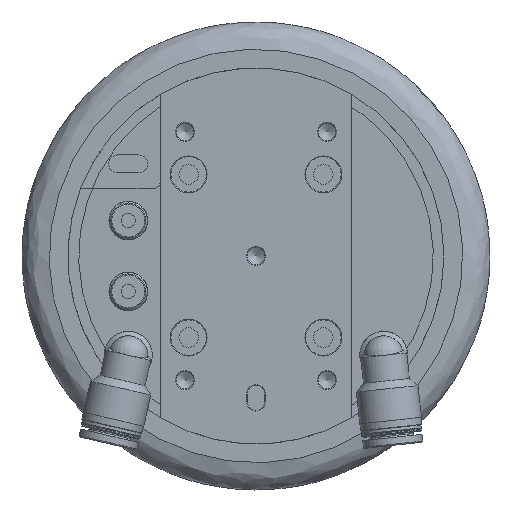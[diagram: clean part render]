
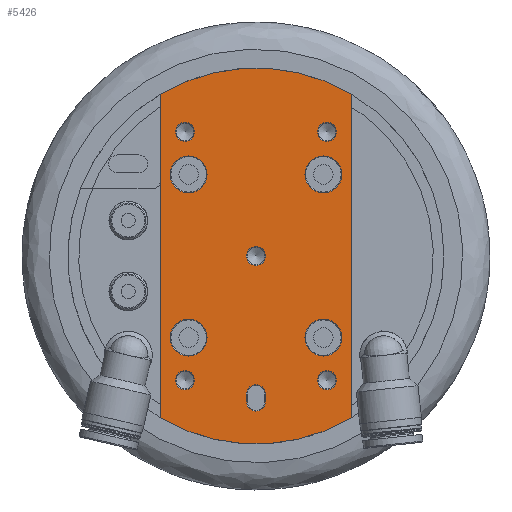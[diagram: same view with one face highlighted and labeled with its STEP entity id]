
A CAD part, front view. The second image highlights one B-rep face of the part: STEP entity #5426.
In plain terms, the highlighted planar face has unit normal (0, -1, 0).
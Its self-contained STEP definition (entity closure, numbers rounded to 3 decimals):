
#809=LINE($,#8707,#985);
#812=LINE($,#8730,#988);
#813=LINE($,#8738,#989);
#814=LINE($,#8742,#990);
#985=VECTOR($,#7108,91.214);
#988=VECTOR($,#7131,91.214);
#989=VECTOR($,#7138,2.);
#990=VECTOR($,#7141,2.);
#1219=FACE_BOUND($,#1661,.T.);
#1220=FACE_BOUND($,#1662,.T.);
#1221=FACE_BOUND($,#1663,.T.);
#1222=FACE_BOUND($,#1664,.T.);
#1223=FACE_BOUND($,#1665,.T.);
#1224=FACE_BOUND($,#1666,.T.);
#1225=FACE_BOUND($,#1667,.T.);
#1226=FACE_BOUND($,#1668,.T.);
#1227=FACE_BOUND($,#1669,.T.);
#1228=FACE_BOUND($,#1670,.T.);
#1229=FACE_BOUND($,#1671,.T.);
#1661=EDGE_LOOP($,(#3968));
#1662=EDGE_LOOP($,(#3969));
#1663=EDGE_LOOP($,(#3970));
#1664=EDGE_LOOP($,(#3971));
#1665=EDGE_LOOP($,(#3972));
#1666=EDGE_LOOP($,(#3973,#3974,#3975,#3976));
#1667=EDGE_LOOP($,(#3977));
#1668=EDGE_LOOP($,(#3978));
#1669=EDGE_LOOP($,(#3979,#3980,#3981,#3982));
#1670=EDGE_LOOP($,(#3983));
#1671=EDGE_LOOP($,(#3984));
#2248=CIRCLE($,#5986,2.7);
#2249=CIRCLE($,#5988,5.2);
#2250=CIRCLE($,#5989,5.2);
#2251=CIRCLE($,#5990,5.2);
#2252=CIRCLE($,#5991,2.659);
#2253=CIRCLE($,#5992,2.659);
#2254=CIRCLE($,#5993,53.);
#2255=CIRCLE($,#5994,53.);
#2256=CIRCLE($,#5995,2.659);
#2257=CIRCLE($,#5996,2.659);
#2258=CIRCLE($,#5997,2.7);
#2259=CIRCLE($,#5998,2.7);
#2260=CIRCLE($,#5999,5.2);
#2630=VERTEX_POINT($,#8704);
#2631=VERTEX_POINT($,#8706);
#2634=VERTEX_POINT($,#8714);
#2635=VERTEX_POINT($,#8717);
#2636=VERTEX_POINT($,#8719);
#2637=VERTEX_POINT($,#8721);
#2638=VERTEX_POINT($,#8723);
#2639=VERTEX_POINT($,#8725);
#2640=VERTEX_POINT($,#8727);
#2641=VERTEX_POINT($,#8729);
#2642=VERTEX_POINT($,#8732);
#2643=VERTEX_POINT($,#8734);
#2644=VERTEX_POINT($,#8736);
#2645=VERTEX_POINT($,#8737);
#2646=VERTEX_POINT($,#8739);
#2647=VERTEX_POINT($,#8741);
#2648=VERTEX_POINT($,#8744);
#3156=EDGE_CURVE($,#2631,#2630,#809,.T.);
#3160=EDGE_CURVE($,#2634,#2634,#2248,.T.);
#3161=EDGE_CURVE($,#2635,#2635,#2249,.T.);
#3162=EDGE_CURVE($,#2636,#2636,#2250,.T.);
#3163=EDGE_CURVE($,#2637,#2637,#2251,.T.);
#3164=EDGE_CURVE($,#2638,#2638,#2252,.T.);
#3165=EDGE_CURVE($,#2639,#2639,#2253,.T.);
#3166=EDGE_CURVE($,#2630,#2640,#2254,.T.);
#3167=EDGE_CURVE($,#2640,#2641,#812,.T.);
#3168=EDGE_CURVE($,#2641,#2631,#2255,.T.);
#3169=EDGE_CURVE($,#2642,#2642,#2256,.T.);
#3170=EDGE_CURVE($,#2643,#2643,#2257,.T.);
#3171=EDGE_CURVE($,#2644,#2645,#813,.T.);
#3172=EDGE_CURVE($,#2646,#2644,#2258,.T.);
#3173=EDGE_CURVE($,#2647,#2646,#814,.T.);
#3174=EDGE_CURVE($,#2645,#2647,#2259,.T.);
#3175=EDGE_CURVE($,#2648,#2648,#2260,.T.);
#3968=ORIENTED_EDGE($,*,*,#3161,.F.);
#3969=ORIENTED_EDGE($,*,*,#3162,.F.);
#3970=ORIENTED_EDGE($,*,*,#3163,.F.);
#3971=ORIENTED_EDGE($,*,*,#3164,.F.);
#3972=ORIENTED_EDGE($,*,*,#3165,.F.);
#3973=ORIENTED_EDGE($,*,*,#3156,.T.);
#3974=ORIENTED_EDGE($,*,*,#3166,.T.);
#3975=ORIENTED_EDGE($,*,*,#3167,.T.);
#3976=ORIENTED_EDGE($,*,*,#3168,.T.);
#3977=ORIENTED_EDGE($,*,*,#3169,.F.);
#3978=ORIENTED_EDGE($,*,*,#3170,.F.);
#3979=ORIENTED_EDGE($,*,*,#3171,.F.);
#3980=ORIENTED_EDGE($,*,*,#3172,.F.);
#3981=ORIENTED_EDGE($,*,*,#3173,.F.);
#3982=ORIENTED_EDGE($,*,*,#3174,.F.);
#3983=ORIENTED_EDGE($,*,*,#3175,.F.);
#3984=ORIENTED_EDGE($,*,*,#3160,.F.);
#4786=PLANE($,#5987);
#5426=ADVANCED_FACE($,(#1219,#1220,#1221,#1222,#1223,#1224,#1225,#1226,
#1227,#1228,#1229),#4786,.F.);
#5986=AXIS2_PLACEMENT_3D($,#8715,#7115,#7116);
#5987=AXIS2_PLACEMENT_3D($,#8716,#7117,#7118);
#5988=AXIS2_PLACEMENT_3D($,#8718,#7119,#7120);
#5989=AXIS2_PLACEMENT_3D($,#8720,#7121,#7122);
#5990=AXIS2_PLACEMENT_3D($,#8722,#7123,#7124);
#5991=AXIS2_PLACEMENT_3D($,#8724,#7125,#7126);
#5992=AXIS2_PLACEMENT_3D($,#8726,#7127,#7128);
#5993=AXIS2_PLACEMENT_3D($,#8728,#7129,#7130);
#5994=AXIS2_PLACEMENT_3D($,#8731,#7132,#7133);
#5995=AXIS2_PLACEMENT_3D($,#8733,#7134,#7135);
#5996=AXIS2_PLACEMENT_3D($,#8735,#7136,#7137);
#5997=AXIS2_PLACEMENT_3D($,#8740,#7139,#7140);
#5998=AXIS2_PLACEMENT_3D($,#8743,#7142,#7143);
#5999=AXIS2_PLACEMENT_3D($,#8745,#7144,#7145);
#7108=DIRECTION($,(0.,0.,-1.));
#7115=DIRECTION('center_axis',(0.,-1.,0.));
#7116=DIRECTION('ref_axis',(-1.,0.,0.));
#7117=DIRECTION('center_axis',(0.,1.,0.));
#7118=DIRECTION('ref_axis',(0.,0.,1.));
#7119=DIRECTION('center_axis',(0.,-1.,0.));
#7120=DIRECTION('ref_axis',(-1.,0.,0.));
#7121=DIRECTION('center_axis',(0.,-1.,0.));
#7122=DIRECTION('ref_axis',(-1.,0.,0.));
#7123=DIRECTION('center_axis',(0.,-1.,0.));
#7124=DIRECTION('ref_axis',(-1.,0.,0.));
#7125=DIRECTION('center_axis',(0.,-1.,0.));
#7126=DIRECTION('ref_axis',(-1.,0.,0.));
#7127=DIRECTION('center_axis',(0.,-1.,0.));
#7128=DIRECTION('ref_axis',(-1.,0.,0.));
#7129=DIRECTION('center_axis',(0.,-1.,0.));
#7130=DIRECTION('ref_axis',(1.,0.,0.));
#7131=DIRECTION($,(0.,0.,1.));
#7132=DIRECTION('center_axis',(0.,-1.,0.));
#7133=DIRECTION('ref_axis',(1.,0.,0.));
#7134=DIRECTION('center_axis',(0.,-1.,0.));
#7135=DIRECTION('ref_axis',(-1.,0.,0.));
#7136=DIRECTION('center_axis',(0.,-1.,0.));
#7137=DIRECTION('ref_axis',(-1.,0.,0.));
#7138=DIRECTION($,(0.,0.,-1.));
#7139=DIRECTION('center_axis',(0.,-1.,0.));
#7140=DIRECTION('ref_axis',(1.,0.,0.));
#7141=DIRECTION($,(0.,0.,1.));
#7142=DIRECTION('center_axis',(0.,-1.,0.));
#7143=DIRECTION('ref_axis',(-1.,0.,0.));
#7144=DIRECTION('center_axis',(0.,-1.,0.));
#7145=DIRECTION('ref_axis',(-1.,0.,0.));
#8704=CARTESIAN_POINT('',(-27.,-14.,-45.607));
#8706=CARTESIAN_POINT('',(-27.,-14.,45.607));
#8707=CARTESIAN_POINT($,(-27.,-14.,22.804));
#8714=CARTESIAN_POINT('',(2.7,-14.,0.));
#8715=CARTESIAN_POINT('Origin',(0.,-14.,0.));
#8716=CARTESIAN_POINT('Origin',(0.,-14.,0.));
#8717=CARTESIAN_POINT('',(-13.8,-14.,23.));
#8718=CARTESIAN_POINT('Origin',(-19.,-14.,23.));
#8719=CARTESIAN_POINT('',(24.2,-14.,-23.));
#8720=CARTESIAN_POINT('Origin',(19.,-14.,-23.));
#8721=CARTESIAN_POINT('',(-13.8,-14.,-23.));
#8722=CARTESIAN_POINT('Origin',(-19.,-14.,-23.));
#8723=CARTESIAN_POINT('',(22.659,-14.,-35.));
#8724=CARTESIAN_POINT('Origin',(20.,-14.,-35.));
#8725=CARTESIAN_POINT('',(-17.342,-14.,35.));
#8726=CARTESIAN_POINT('Origin',(-20.,-14.,35.));
#8727=CARTESIAN_POINT('',(27.,-14.,-45.607));
#8728=CARTESIAN_POINT('Origin',(0.,-14.,0.));
#8729=CARTESIAN_POINT('',(27.,-14.,45.607));
#8730=CARTESIAN_POINT($,(27.,-14.,-22.804));
#8731=CARTESIAN_POINT('Origin',(0.,-14.,0.));
#8732=CARTESIAN_POINT('',(22.659,-14.,35.));
#8733=CARTESIAN_POINT('Origin',(20.,-14.,35.));
#8734=CARTESIAN_POINT('',(-17.342,-14.,-35.));
#8735=CARTESIAN_POINT('Origin',(-20.,-14.,-35.));
#8736=CARTESIAN_POINT('',(-2.7,-14.,-39.));
#8737=CARTESIAN_POINT('',(-2.7,-14.,-41.));
#8738=CARTESIAN_POINT($,(-2.7,-14.,-20.5));
#8739=CARTESIAN_POINT('',(2.7,-14.,-39.));
#8740=CARTESIAN_POINT('Origin',(0.,-14.,-39.));
#8741=CARTESIAN_POINT('',(2.7,-14.,-41.));
#8742=CARTESIAN_POINT($,(2.7,-14.,-19.5));
#8743=CARTESIAN_POINT('Origin',(0.,-14.,-41.));
#8744=CARTESIAN_POINT('',(24.2,-14.,23.));
#8745=CARTESIAN_POINT('Origin',(19.,-14.,23.));
